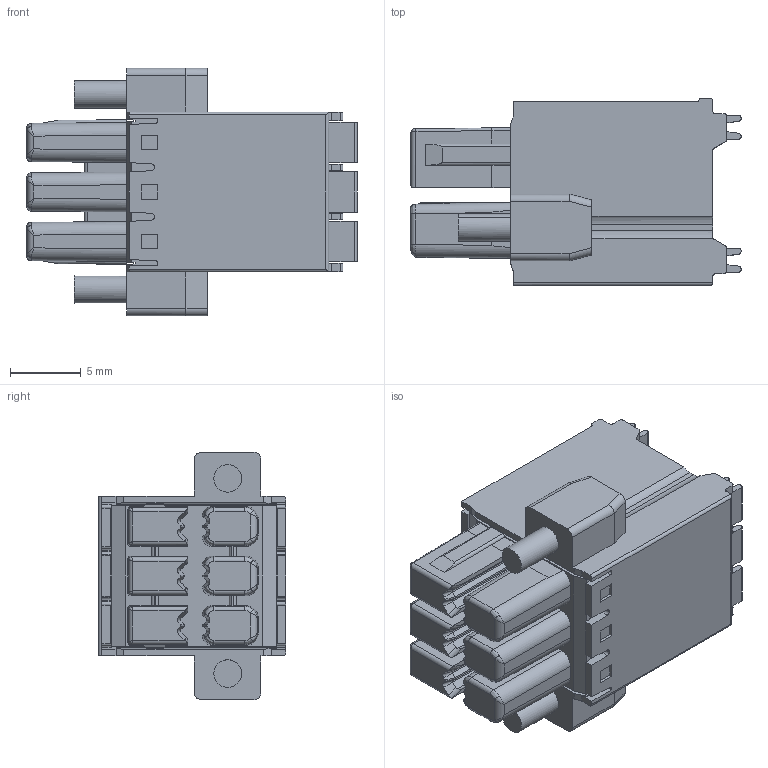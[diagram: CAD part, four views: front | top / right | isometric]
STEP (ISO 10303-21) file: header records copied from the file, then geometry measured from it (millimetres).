
FILE_DESCRIPTION( (''), '2;1');
FILE_NAME ('YS8Z-CN6.stp','2022-12-01T15:00:01',(''),(''),'spGate 12.6.6','','');
FILE_SCHEMA (('AUTOMOTIVE_DESIGN'));
Length unit declared in the file: millimetre
Bounding box: 23.35 x 13.25 x 17.5 mm (x, y, z)
Volume: 2437.9 mm3; surface area: 2494.4 mm2
Topology: 1 solids, 1 shells, 669 faces, 1771 edges, 1117 vertices
Faces by surface type: plane 380, cylinder 221, bspline 68
Entity records: 37514 total; most frequent: CARTESIAN_POINT 7327, ORIENTED_EDGE 3518, DIRECTION 3204, COLOUR_RGB 2429, PRESENTATION_STYLE_ASSIGNMENT 2429, STYLED_ITEM 2429, EDGE_CURVE 1759, DRAUGHTING_PRE_DEFINED_CURVE_FONT 1759
